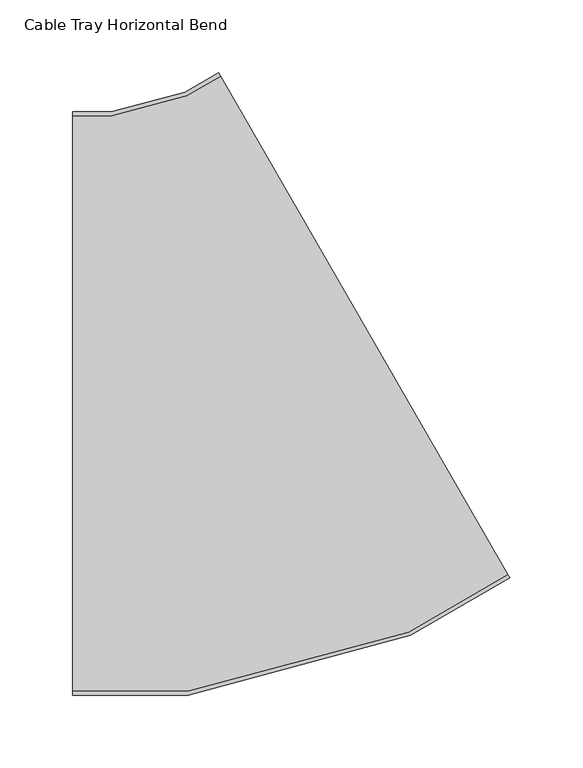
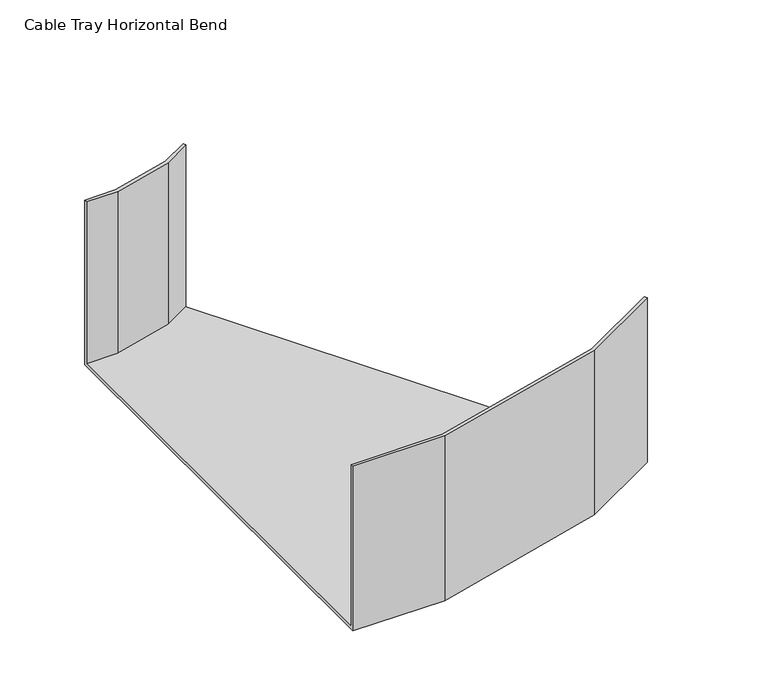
"""IFC4 building model written with IfcOpenShell, lengths in millimetres: cable carrier fitting geometry, Cable Tray Horizontal Bend : ELEC_ELV_TKG_N2402."""

from ifc_helpers import new_model, si_unit, origin, place, context, project, spatial, faceted_brep, source, transform, mapped, element, save


def cable_tray_horizontal_bend_216ff8bb(model_context):
    return source(origin(), model_context, "Body", "Brep", [
        faceted_brep([(-107.1796769, -200.0, -75.0), (-107.1796769, -200.0, 75.0), (-107.1796769, -197.46, 75.0), (-107.1796769, -197.46, -72.46), (-107.1796769, 197.46, -72.46), (-107.1796769, 197.46, 75.0), (-107.1796769, 200.0, 75.0), (-107.1796769, 200.0, -75.0), (192.820323, -119.6152423, -75.0), (-7.179677, 226.7949192, -75.0), (-7.179677, 226.7949192, 75.0), (-5.909677, 224.5952147, 75.0), (-5.909677, 224.5952147, -72.46), (191.550323, -117.4155378, -72.46), (191.550323, -117.4155378, 75.0), (192.820323, -119.6152423, 75.0), (-28.1881784, -200.0, -75.0), (-28.1881784, -200.0, 75.0), (124.4116786, -159.1109916, 75.0), (123.4312752, -156.7440884, 75.0), (-28.5225757, -197.46, 75.0), (-28.5225757, -197.46, -72.46), (123.4312752, -156.7440884, -72.46), (-29.002155, 211.2627663, -72.46), (-80.5147801, 197.46, -72.46), (-80.5147801, 197.46, 75.0), (-29.002155, 211.2627663, 75.0), (-29.9825584, 213.6296695, 75.0), (-80.8491774, 200.0, 75.0), (-80.8491774, 200.0, -75.0), (-29.9825584, 213.6296695, -75.0), (124.4116786, -159.1109916, -75.0)], [[[0, 1, 2, 3, 4, 5, 6, 7]], [[8, 9, 10, 11, 12, 13, 14, 15]], [[1, 0, 16, 17]], [[2, 1, 17, 18, 15, 14, 19, 20]], [[3, 2, 20, 21]], [[4, 3, 21, 22, 13, 12, 23, 24]], [[5, 4, 24, 25]], [[6, 5, 25, 26, 11, 10, 27, 28]], [[7, 6, 28, 29]], [[0, 7, 29, 30, 9, 8, 31, 16]], [[17, 16, 31, 18]], [[21, 20, 19, 22]], [[25, 24, 23, 26]], [[29, 28, 27, 30]], [[18, 31, 8, 15]], [[22, 19, 14, 13]], [[26, 23, 12, 11]], [[30, 27, 10, 9]]]),
    ])


if __name__ == "__main__":
    model = new_model("IFC4")
    model_context = context("Model", 3, world=origin())
    ifc_project = project(units=[si_unit("LENGTHUNIT", "METRE", prefix="MILLI")], contexts=[model_context])
    site = spatial("IfcSite", under=ifc_project)
    building = spatial("IfcBuilding", under=site)
    placement = place(None, origin())
    cable_tray_horizontal_bend_shape = cable_tray_horizontal_bend_216ff8bb(model_context)
    element("IfcCableCarrierFitting", 1, ObjectType="Cable Tray Horizontal Bend : ELEC_ELV_TKG_N2402", at=placement, inside=building, context=model_context, shape_type="MappedRepresentation", body=[
        mapped(cable_tray_horizontal_bend_shape, transform((0.0, 0.0, 0.0), x_axis=(1.0, 0.0, 0.0), y_axis=(0.0, 1.0, 0.0), z_axis=(0.0, 0.0, 1.0))),
    ])
    save(model, "model.ifc")
